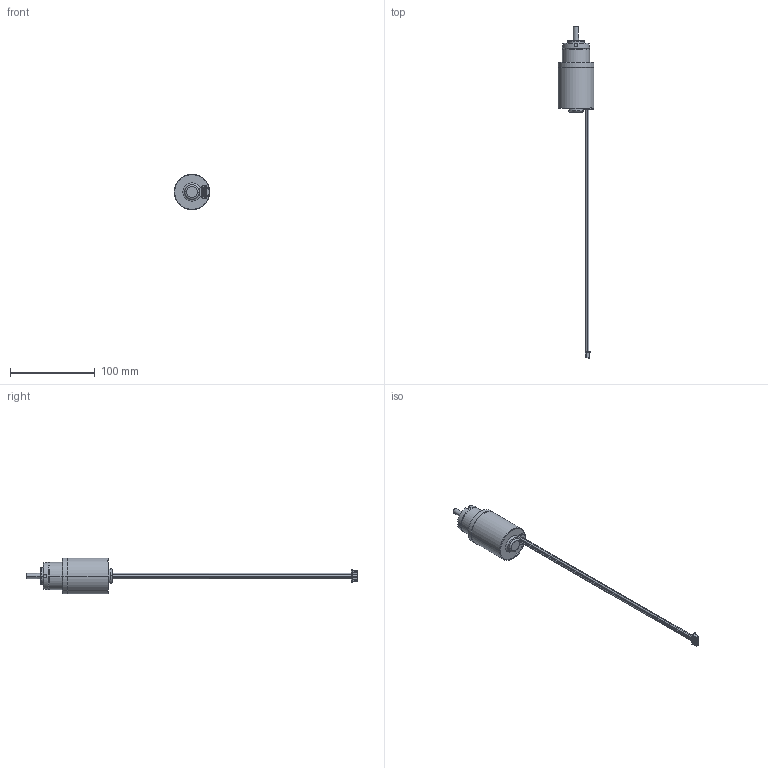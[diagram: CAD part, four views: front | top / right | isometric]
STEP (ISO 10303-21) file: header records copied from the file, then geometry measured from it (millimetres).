
FILE_DESCRIPTION((''),'2;1');
FILE_NAME('B_S_ASM','2024-01-16T15:17:29',('Danny.Guo'),(''),'CREO PARAMETRIC BY PTC INC, 2020414','CREO PARAMETRIC BY PTC INC, 2020414','');
FILE_SCHEMA(('CONFIG_CONTROL_DESIGN'));
Length unit declared in the file: millimetre
Products named in the file (3): B_S; XHP-5_1; B_S_ASM
Assembly tree (2 placements, depth 2):
  B_S_ASM
    B_S
    XHP-5_1
Bounding box: 42 x 391.83 x 42 mm (x, y, z)
Volume: 98855.2 mm3; surface area: 25670.3 mm2
Topology: 2 solids, 6 shells, 286 faces, 704 edges, 458 vertices
Faces by surface type: plane 165, cylinder 88, cone 30, torus 3
Entity records: 8548 total; most frequent: CARTESIAN_POINT 1530, DIRECTION 1496, ORIENTED_EDGE 1376, EDGE_CURVE 696, AXIS2_PLACEMENT_3D 521, VERTEX_POINT 458, VECTOR 454, LINE 454
